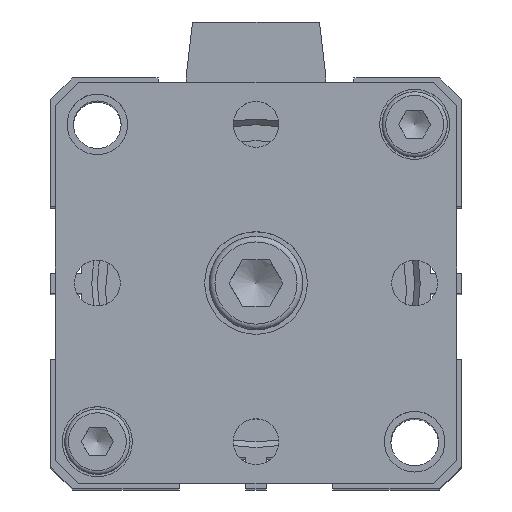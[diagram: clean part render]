
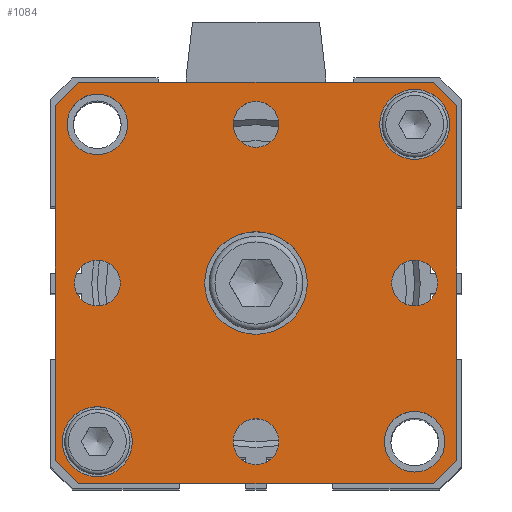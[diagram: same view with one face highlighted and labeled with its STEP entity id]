
A CAD part, top view. The second image highlights one B-rep face of the part: STEP entity #1084.
In plain terms, the highlighted planar face has unit normal (0, 0, 1).
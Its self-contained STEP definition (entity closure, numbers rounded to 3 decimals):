
#290=CARTESIAN_POINT('',(-16.976,-17.12,101.5));
#291=VERTEX_POINT('',#290);
#292=CARTESIAN_POINT('',(-20.726,-17.12,101.5));
#293=DIRECTION('',(0.0,0.0,-1.0));
#294=DIRECTION('',(1.0,0.0,0.0));
#295=AXIS2_PLACEMENT_3D('',#292,#293,#294);
#296=CIRCLE('',#295,3.75);
#297=EDGE_CURVE('',#291,#291,#296,.T.);
#392=CARTESIAN_POINT('',(17.024,16.88,101.5));
#393=VERTEX_POINT('',#392);
#394=CARTESIAN_POINT('',(13.274,16.88,101.5));
#395=DIRECTION('',(0.0,0.0,-1.0));
#396=DIRECTION('',(1.0,0.0,0.0));
#397=AXIS2_PLACEMENT_3D('',#394,#395,#396);
#398=CIRCLE('',#397,3.75);
#399=EDGE_CURVE('',#393,#393,#398,.T.);
#477=CARTESIAN_POINT('',(15.733,-0.12,101.5));
#478=VERTEX_POINT('',#477);
#479=CARTESIAN_POINT('',(13.274,-0.12,101.5));
#480=DIRECTION('',(0.0,0.0,-1.0));
#481=DIRECTION('',(1.0,0.0,0.0));
#482=AXIS2_PLACEMENT_3D('',#479,#480,#481);
#483=CIRCLE('',#482,2.459);
#484=EDGE_CURVE('',#478,#478,#483,.T.);
#526=CARTESIAN_POINT('',(-1.267,-17.12,101.5));
#527=VERTEX_POINT('',#526);
#528=CARTESIAN_POINT('',(-3.726,-17.12,101.5));
#529=DIRECTION('',(0.0,0.0,-1.0));
#530=DIRECTION('',(1.0,0.0,0.0));
#531=AXIS2_PLACEMENT_3D('',#528,#529,#530);
#532=CIRCLE('',#531,2.459);
#533=EDGE_CURVE('',#527,#527,#532,.T.);
#575=CARTESIAN_POINT('',(-18.267,-0.12,101.5));
#576=VERTEX_POINT('',#575);
#577=CARTESIAN_POINT('',(-20.726,-0.12,101.5));
#578=DIRECTION('',(0.0,0.0,-1.0));
#579=DIRECTION('',(1.0,0.0,0.0));
#580=AXIS2_PLACEMENT_3D('',#577,#578,#579);
#581=CIRCLE('',#580,2.459);
#582=EDGE_CURVE('',#576,#576,#581,.T.);
#624=CARTESIAN_POINT('',(-1.267,16.88,101.5));
#625=VERTEX_POINT('',#624);
#626=CARTESIAN_POINT('',(-3.726,16.88,101.5));
#627=DIRECTION('',(0.0,0.0,-1.0));
#628=DIRECTION('',(1.0,0.0,0.0));
#629=AXIS2_PLACEMENT_3D('',#626,#627,#628);
#630=CIRCLE('',#629,2.459);
#631=EDGE_CURVE('',#625,#625,#630,.T.);
#690=CARTESIAN_POINT('',(1.774,-0.12,101.5));
#691=VERTEX_POINT('',#690);
#692=CARTESIAN_POINT('',(-3.726,-0.12,101.5));
#693=DIRECTION('',(0.0,0.0,-1.0));
#694=DIRECTION('',(1.0,0.0,0.0));
#695=AXIS2_PLACEMENT_3D('',#692,#693,#694);
#696=CIRCLE('',#695,5.5);
#697=EDGE_CURVE('',#691,#691,#696,.T.);
#743=CARTESIAN_POINT('',(16.524,-17.12,101.5));
#744=VERTEX_POINT('',#743);
#745=CARTESIAN_POINT('',(13.274,-17.12,101.5));
#746=DIRECTION('',(0.0,0.0,-1.0));
#747=DIRECTION('',(-1.0,0.0,0.0));
#748=AXIS2_PLACEMENT_3D('',#745,#746,#747);
#749=CIRCLE('',#748,3.25);
#750=EDGE_CURVE('',#744,#744,#749,.T.);
#771=CARTESIAN_POINT('',(-17.476,16.88,101.5));
#772=VERTEX_POINT('',#771);
#773=CARTESIAN_POINT('',(-20.726,16.88,101.5));
#774=DIRECTION('',(0.0,0.0,-1.0));
#775=DIRECTION('',(-1.0,0.0,0.0));
#776=AXIS2_PLACEMENT_3D('',#773,#774,#775);
#777=CIRCLE('',#776,3.25);
#778=EDGE_CURVE('',#772,#772,#777,.T.);
#799=CARTESIAN_POINT('',(-22.726,21.38,101.5));
#800=VERTEX_POINT('',#799);
#801=CARTESIAN_POINT('',(15.274,21.38,101.5));
#802=VERTEX_POINT('',#801);
#803=CARTESIAN_POINT('',(-22.726,21.38,101.5));
#804=DIRECTION('',(1.0,0.0,0.0));
#805=VECTOR('',#804,38.);
#806=LINE('',#803,#805);
#807=EDGE_CURVE('',#800,#802,#806,.T.);
#839=CARTESIAN_POINT('',(17.774,18.88,101.5));
#840=VERTEX_POINT('',#839);
#841=CARTESIAN_POINT('',(15.274,21.38,101.5));
#842=DIRECTION('',(0.707,-0.707,0.0));
#843=VECTOR('',#842,3.536);
#844=LINE('',#841,#843);
#845=EDGE_CURVE('',#802,#840,#844,.T.);
#870=CARTESIAN_POINT('',(17.774,-19.12,101.5));
#871=VERTEX_POINT('',#870);
#872=CARTESIAN_POINT('',(17.774,18.88,101.5));
#873=DIRECTION('',(0.0,-1.0,0.0));
#874=VECTOR('',#873,38.);
#875=LINE('',#872,#874);
#876=EDGE_CURVE('',#840,#871,#875,.T.);
#901=CARTESIAN_POINT('',(15.274,-21.62,101.5));
#902=VERTEX_POINT('',#901);
#903=CARTESIAN_POINT('',(17.774,-19.12,101.5));
#904=DIRECTION('',(-0.707,-0.707,0.0));
#905=VECTOR('',#904,3.536);
#906=LINE('',#903,#905);
#907=EDGE_CURVE('',#871,#902,#906,.T.);
#932=CARTESIAN_POINT('',(-22.726,-21.62,101.5));
#933=VERTEX_POINT('',#932);
#934=CARTESIAN_POINT('',(15.274,-21.62,101.5));
#935=DIRECTION('',(-1.0,0.0,0.0));
#936=VECTOR('',#935,38.);
#937=LINE('',#934,#936);
#938=EDGE_CURVE('',#902,#933,#937,.T.);
#963=CARTESIAN_POINT('',(-25.226,-19.12,101.5));
#964=VERTEX_POINT('',#963);
#965=CARTESIAN_POINT('',(-22.726,-21.62,101.5));
#966=DIRECTION('',(-0.707,0.707,0.0));
#967=VECTOR('',#966,3.536);
#968=LINE('',#965,#967);
#969=EDGE_CURVE('',#933,#964,#968,.T.);
#994=CARTESIAN_POINT('',(-25.226,18.88,101.5));
#995=VERTEX_POINT('',#994);
#996=CARTESIAN_POINT('',(-25.226,-19.12,101.5));
#997=DIRECTION('',(0.0,1.0,0.0));
#998=VECTOR('',#997,38.);
#999=LINE('',#996,#998);
#1000=EDGE_CURVE('',#964,#995,#999,.T.);
#1025=CARTESIAN_POINT('',(-25.226,18.88,101.5));
#1026=DIRECTION('',(0.707,0.707,0.0));
#1027=VECTOR('',#1026,3.536);
#1028=LINE('',#1025,#1027);
#1029=EDGE_CURVE('',#995,#800,#1028,.T.);
#1042=CARTESIAN_POINT('',(-3.726,-0.12,101.5));
#1043=DIRECTION('',(0.0,0.0,1.0));
#1044=DIRECTION('',(1.0,0.0,0.0));
#1045=AXIS2_PLACEMENT_3D('',#1042,#1043,#1044);
#1046=PLANE('',#1045);
#1047=ORIENTED_EDGE('',*,*,#807,.F.);
#1048=ORIENTED_EDGE('',*,*,#1029,.F.);
#1049=ORIENTED_EDGE('',*,*,#1000,.F.);
#1050=ORIENTED_EDGE('',*,*,#969,.F.);
#1051=ORIENTED_EDGE('',*,*,#938,.F.);
#1052=ORIENTED_EDGE('',*,*,#907,.F.);
#1053=ORIENTED_EDGE('',*,*,#876,.F.);
#1054=ORIENTED_EDGE('',*,*,#845,.F.);
#1055=EDGE_LOOP('',(#1047,#1048,#1049,#1050,#1051,#1052,#1053,#1054));
#1056=FACE_OUTER_BOUND('',#1055,.T.);
#1057=ORIENTED_EDGE('',*,*,#297,.T.);
#1058=EDGE_LOOP('',(#1057));
#1059=FACE_BOUND('',#1058,.T.);
#1060=ORIENTED_EDGE('',*,*,#399,.T.);
#1061=EDGE_LOOP('',(#1060));
#1062=FACE_BOUND('',#1061,.T.);
#1063=ORIENTED_EDGE('',*,*,#484,.T.);
#1064=EDGE_LOOP('',(#1063));
#1065=FACE_BOUND('',#1064,.T.);
#1066=ORIENTED_EDGE('',*,*,#533,.T.);
#1067=EDGE_LOOP('',(#1066));
#1068=FACE_BOUND('',#1067,.T.);
#1069=ORIENTED_EDGE('',*,*,#582,.T.);
#1070=EDGE_LOOP('',(#1069));
#1071=FACE_BOUND('',#1070,.T.);
#1072=ORIENTED_EDGE('',*,*,#631,.T.);
#1073=EDGE_LOOP('',(#1072));
#1074=FACE_BOUND('',#1073,.T.);
#1075=ORIENTED_EDGE('',*,*,#697,.T.);
#1076=EDGE_LOOP('',(#1075));
#1077=FACE_BOUND('',#1076,.T.);
#1078=ORIENTED_EDGE('',*,*,#750,.T.);
#1079=EDGE_LOOP('',(#1078));
#1080=FACE_BOUND('',#1079,.T.);
#1081=ORIENTED_EDGE('',*,*,#778,.T.);
#1082=EDGE_LOOP('',(#1081));
#1083=FACE_BOUND('',#1082,.T.);
#1084=ADVANCED_FACE('',(#1056,#1059,#1062,#1065,#1068,#1071,#1074,#1077,#1080,#1083),#1046,.T.);
